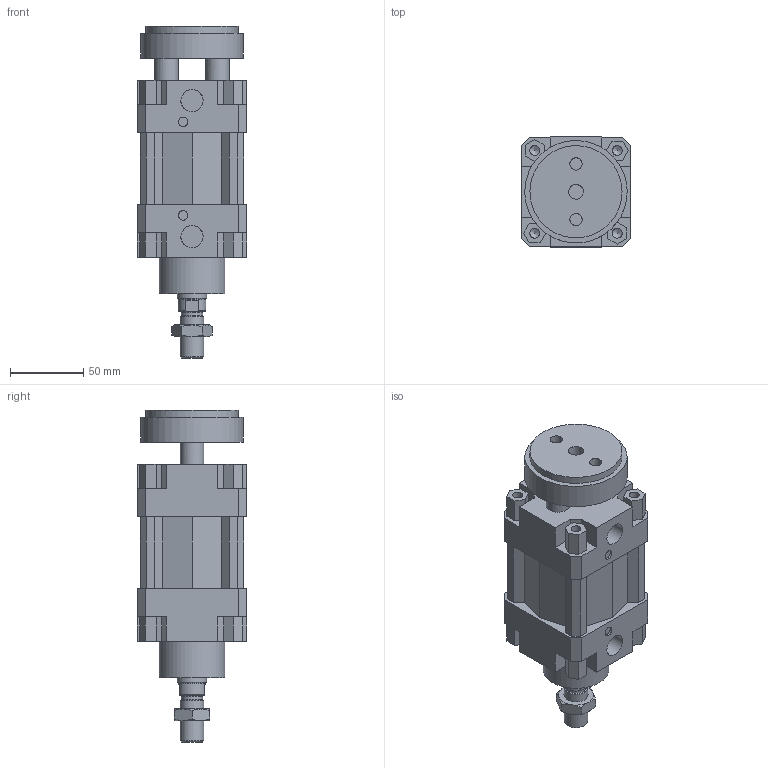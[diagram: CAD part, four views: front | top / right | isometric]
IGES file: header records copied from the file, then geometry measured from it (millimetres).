
Global section: file name: 132#_063_0000_02; native system: Autodesk Inventor 2014; preprocessor: unknown; author: A. Manieri; date: 20161006.155818; units: millimetre
Bounding box: 75 x 75 x 227 mm (x, y, z)
Volume: 710010 mm3; surface area: 126789.2 mm2
Topology: 3 solids, 3 shells, 220 faces, 589 edges, 397 vertices
Faces by surface type: bspline 220
